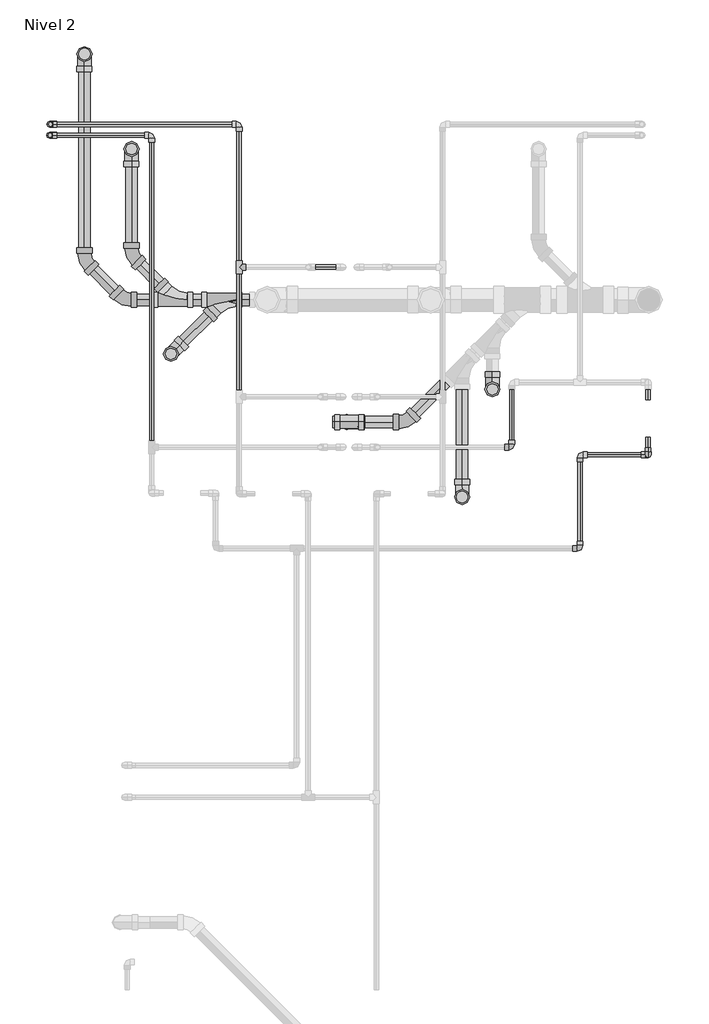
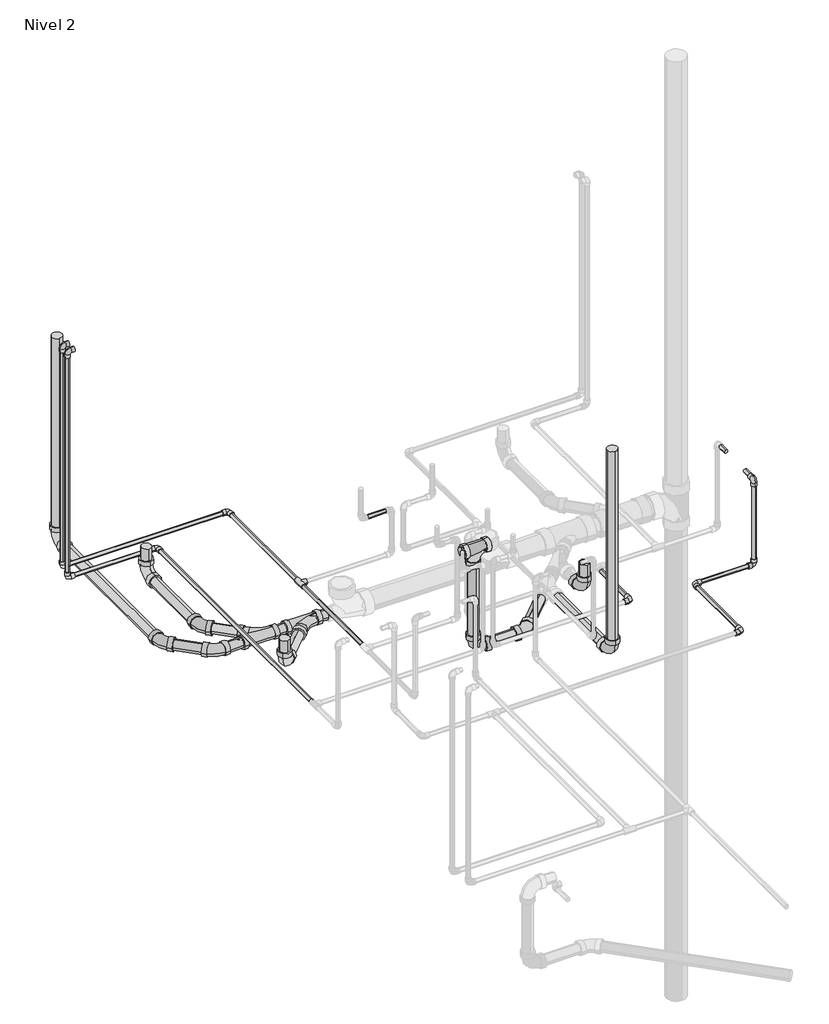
# One storey, part 8 of 9: 33 pipe segments, 25 pipe fittings.
"""IFC4 building model written with IfcOpenShell, lengths in millimetres."""

from ifc_helpers import new_model, si_unit, point, frame, frame_2d, origin, place, context, project, spatial, circle_curve, trimmed, segment, composite_curve, outline, extrude, transform, mapped, element, save
from components import pipe_fitting_ab418b84, pipe_fitting_0163322b, pipe_fitting_6ef1482d, m_codo_pvc_serie_40_9ad74631, m_codo_pvc_serie_40_dwv1_5c0ec739, m_codo_pvc_serie_40_dwv1_6f1a2495

model = new_model("IFC4")

# Units and contexts
model_context = context("Model", 3, world=origin())
ifc_project = project(units=[si_unit("LENGTHUNIT", "METRE", prefix="MILLI")], contexts=[model_context])

# Site, building, storey
site = spatial("IfcSite", under=ifc_project)
building = spatial("IfcBuilding", under=site)
storey = spatial("IfcBuildingStorey", under=building, Name="Nivel 2", Elevation=2800.0)

# Pipe fittings
placement = place(None, origin())
pipe_fitting_shape = pipe_fitting_ab418b84(model_context)
element("IfcPipeFitting", 1, ObjectType="M_Te - PVC - Serie 40 : Estándar", at=placement, inside=storey, context=model_context, shape_type="MappedRepresentation", body=[
    mapped(pipe_fitting_shape, transform((3940.052369, 16556.8784649, 2750.0), x_axis=(0.0, 1.0, 0.0), y_axis=(-1.0, 0.0, 0.0), z_axis=(0.0, 0.0, 1.0))),
])
pipe_fitting_2_shape = pipe_fitting_0163322b(model_context)
element("IfcPipeFitting", 2, ObjectType="M_Sanitario con te de reducción - PVC - Serie 40 - DWV : Estándar", at=placement, inside=storey, context=model_context, shape_type="MappedRepresentation", body=[
    mapped(pipe_fitting_2_shape, transform((3642.8791077, 16403.3960274, 2650.0), x_axis=(-1.0, 0.0, 0.0), y_axis=(0.0, -1.0, 0.0), z_axis=(0.0, 0.0, 1.0))),
])
element("IfcPipeFitting", 3, ObjectType="M_Sanitario con te de reducción - PVC - Serie 40 - DWV : Estándar", at=placement, inside=storey, context=model_context, shape_type="MappedRepresentation", body=[
    mapped(pipe_fitting_2_shape, transform((3873.1661658, 16403.3960274, 2650.0), x_axis=(-1.0, 0.0, 0.0), y_axis=(0.0, 1.0, 0.0), z_axis=(0.0, 0.0, -1.0))),
])
pipe_fitting_3_shape = pipe_fitting_6ef1482d(model_context)
element("IfcPipeFitting", 4, ObjectType="M_Sanitario con te de reducción - PVC - Serie 40 - DWV : Estándar", at=placement, inside=storey, context=model_context, shape_type="MappedRepresentation", body=[
    mapped(pipe_fitting_3_shape, transform((4444.9531324, 15830.0, 3210.6716548), x_axis=(-1.0, 0.0, 0.0), y_axis=(0.0, 0.0, 1.0), z_axis=(0.0, 1.0, 0.0))),
])
m_codo_pvc_serie_40_shape = m_codo_pvc_serie_40_9ad74631(model_context)
element("IfcPipeFitting", 5, ObjectType="M_Codo - PVC - Serie 40 : Estándar", at=placement, inside=storey, context=model_context, shape_type="MappedRepresentation", body=[
    mapped(m_codo_pvc_serie_40_shape, transform((3940.052369, 17227.3386211, 2750.0), x_axis=(0.0, 1.0, 0.0), y_axis=(-1.0, 0.0, 0.0), z_axis=(0.0, 0.0, 1.0))),
])
element("IfcPipeFitting", 6, ObjectType="M_Codo - PVC - Serie 40 : Estándar", at=placement, inside=storey, context=model_context, shape_type="MappedRepresentation", body=[
    mapped(m_codo_pvc_serie_40_shape, transform((3051.302369, 17227.3386211, 2750.0), x_axis=(-1.0, 0.0, 0.0), y_axis=(0.0, 0.0, 1.0), z_axis=(0.0, 1.0, 0.0))),
])
element("IfcPipeFitting", 7, ObjectType="M_Codo - PVC - Serie 40 : Estándar", at=placement, inside=storey, context=model_context, shape_type="MappedRepresentation", body=[
    mapped(m_codo_pvc_serie_40_shape, transform((3051.302369, 17227.3386211, 4000.0), x_axis=(0.0, 0.0, 1.0), y_axis=(1.0, 0.0, 0.0), z_axis=(0.0, 1.0, 0.0))),
])
element("IfcPipeFitting", 8, ObjectType="M_Codo - PVC - Serie 40 : Estándar", at=placement, inside=storey, context=model_context, shape_type="MappedRepresentation", body=[
    mapped(m_codo_pvc_serie_40_shape, transform((3529.5674476, 17176.3878958, 2720.0), x_axis=(0.0, 1.0, 0.0), y_axis=(-1.0, 0.0, 0.0), z_axis=(0.0, 0.0, 1.0))),
])
element("IfcPipeFitting", 9, ObjectType="M_Codo - PVC - Serie 40 : Estándar", at=placement, inside=storey, context=model_context, shape_type="MappedRepresentation", body=[
    mapped(m_codo_pvc_serie_40_shape, transform((3049.5674476, 17176.3878958, 2720.0), x_axis=(-1.0, 0.0, 0.0), y_axis=(0.0, 0.0, 1.0), z_axis=(0.0, 1.0, 0.0))),
])
element("IfcPipeFitting", 10, ObjectType="M_Codo - PVC - Serie 40 : Estándar", at=placement, inside=storey, context=model_context, shape_type="MappedRepresentation", body=[
    mapped(m_codo_pvc_serie_40_shape, transform((3049.5674476, 17176.3878958, 4000.0), x_axis=(0.0, 0.0, 1.0), y_axis=(1.0, 0.0, 0.0), z_axis=(0.0, 1.0, 0.0))),
])
element("IfcPipeFitting", 11, ObjectType="M_Codo - PVC - Serie 40 : Estándar", at=placement, inside=storey, context=model_context, shape_type="MappedRepresentation", body=[
    mapped(m_codo_pvc_serie_40_shape, transform((5540.0276039, 15236.3878958, 2720.0), x_axis=(1.0, 0.0, 0.0), y_axis=(0.0, 1.0, 0.0), z_axis=(0.0, 0.0, 1.0))),
])
element("IfcPipeFitting", 12, ObjectType="M_Codo - PVC - Serie 40 : Estándar", at=placement, inside=storey, context=model_context, shape_type="MappedRepresentation", body=[
    mapped(m_codo_pvc_serie_40_shape, transform((5540.0276039, 15676.3878958, 2720.0), x_axis=(-1.0, 0.0, 0.0), y_axis=(0.0, -1.0, 0.0), z_axis=(0.0, 0.0, 1.0))),
])
element("IfcPipeFitting", 13, ObjectType="M_Codo - PVC - Serie 40 : Estándar", at=placement, inside=storey, context=model_context, shape_type="MappedRepresentation", body=[
    mapped(m_codo_pvc_serie_40_shape, transform((5860.0276039, 15676.3878958, 2720.0), x_axis=(1.0, 0.0, 0.0), y_axis=(0.0, 0.0, 1.0), z_axis=(0.0, -1.0, 0.0))),
])
element("IfcPipeFitting", 14, ObjectType="M_Codo - PVC - Serie 40 : Estándar", at=placement, inside=storey, context=model_context, shape_type="MappedRepresentation", body=[
    mapped(m_codo_pvc_serie_40_shape, transform((5860.0276039, 15676.3878958, 3200.0), x_axis=(0.0, 0.0, 1.0), y_axis=(0.0, 1.0, 0.0), z_axis=(-1.0, 0.0, 0.0))),
])
element("IfcPipeFitting", 15, ObjectType="M_Codo - PVC - Serie 40 : Estándar", at=placement, inside=storey, context=model_context, shape_type="MappedRepresentation", body=[
    mapped(m_codo_pvc_serie_40_shape, transform((5219.5674476, 15711.6215833, 2720.0), x_axis=(1.0, 0.0, 0.0), y_axis=(0.0, 1.0, 0.0), z_axis=(0.0, 0.0, 1.0))),
])
m_codo_pvc_serie_40_dwv1_shape = m_codo_pvc_serie_40_dwv1_5c0ec739(model_context)
element("IfcPipeFitting", 16, ObjectType="M_Codo - PVC - Serie 40 - DWV1 : Estándar 2", at=placement, inside=storey, context=model_context, shape_type="MappedRepresentation", body=[
    mapped(m_codo_pvc_serie_40_dwv1_shape, transform((3434.5151234, 17111.7600116, 2650.0), x_axis=(0.0, 1.0, 0.0), y_axis=(0.0, 0.0, 1.0), z_axis=(1.0, 0.0, 0.0))),
])
element("IfcPipeFitting", 17, ObjectType="M_Codo - PVC - Serie 40 - DWV1 : Estándar 2", at=placement, inside=storey, context=model_context, shape_type="MappedRepresentation", body=[
    mapped(m_codo_pvc_serie_40_dwv1_shape, transform((4444.9531324, 15830.0, 2650.0), x_axis=(0.0, 0.0, -1.0), y_axis=(1.0, 0.0, 0.0), z_axis=(0.0, -1.0, 0.0))),
])
element("IfcPipeFitting", 18, ObjectType="M_Codo - PVC - Serie 40 - DWV1 : Estándar 2", at=placement, inside=storey, context=model_context, shape_type="MappedRepresentation", body=[
    mapped(m_codo_pvc_serie_40_dwv1_shape, transform((5128.991198, 15983.6158639, 2650.0), x_axis=(0.0, -1.0, 0.0), y_axis=(0.0, 0.0, 1.0), z_axis=(-1.0, 0.0, 0.0))),
])
element("IfcPipeFitting", 19, ObjectType="M_Codo - PVC - Serie 40 - DWV1 : Estándar 2", at=placement, inside=storey, context=model_context, shape_type="MappedRepresentation", body=[
    mapped(m_codo_pvc_serie_40_dwv1_shape, transform((3619.7701384, 16150.0, 2650.0), x_axis=(-0.7071067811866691, -0.7071067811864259, 0.0), y_axis=(0.0, 0.0, 1.0), z_axis=(-0.7071067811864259, 0.7071067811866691, 0.0))),
])
element("IfcPipeFitting", 20, ObjectType="M_Codo - PVC - Serie 40 - DWV1 : Estándar 2", at=placement, inside=storey, context=model_context, shape_type="MappedRepresentation", body=[
    mapped(m_codo_pvc_serie_40_dwv1_shape, transform((3213.7125219, 17557.2430701, 2650.0), x_axis=(0.0, 1.0, 0.0), y_axis=(0.0, 0.0, 1.0), z_axis=(1.0, 0.0, 0.0))),
])
element("IfcPipeFitting", 21, ObjectType="M_Codo - PVC - Serie 40 - DWV1 : Estándar 2", at=placement, inside=storey, context=model_context, shape_type="MappedRepresentation", body=[
    mapped(m_codo_pvc_serie_40_dwv1_shape, transform((4986.7349767, 15478.0354988, 2650.0), x_axis=(0.0, 0.0, -1.0), y_axis=(0.0, 1.0, 0.0), z_axis=(1.0, 0.0, 0.0))),
])
m_codo_pvc_serie_40_dwv1_2_shape = m_codo_pvc_serie_40_dwv1_6f1a2495(model_context)
element("IfcPipeFitting", 22, ObjectType="M_Codo - PVC - Serie 40 - DWV1 : Estándar 2", at=placement, inside=storey, context=model_context, shape_type="MappedRepresentation", body=[
    mapped(m_codo_pvc_serie_40_dwv1_2_shape, transform((3434.5151234, 16611.7600116, 2650.0), x_axis=(0.0, -1.0, 0.0), y_axis=(1.0, 0.0, 0.0), z_axis=(0.0, 0.0, 1.0))),
])
element("IfcPipeFitting", 23, ObjectType="M_Codo - PVC - Serie 40 - DWV1 : Estándar 2", at=placement, inside=storey, context=model_context, shape_type="MappedRepresentation", body=[
    mapped(m_codo_pvc_serie_40_dwv1_2_shape, transform((4723.699478, 15830.0, 2650.0), x_axis=(1.0, 0.0, 0.0), y_axis=(0.0, 1.0, 0.0), z_axis=(0.0, 0.0, 1.0))),
])
element("IfcPipeFitting", 24, ObjectType="M_Codo - PVC - Serie 40 - DWV1 : Estándar 2", at=placement, inside=storey, context=model_context, shape_type="MappedRepresentation", body=[
    mapped(m_codo_pvc_serie_40_dwv1_2_shape, transform((3213.7125219, 16587.2430701, 2650.0), x_axis=(0.0, -1.0, 0.0), y_axis=(1.0, 0.0, 0.0), z_axis=(0.0, 0.0, 1.0))),
])
element("IfcPipeFitting", 25, ObjectType="M_Codo - PVC - Serie 40 - DWV1 : Estándar 2", at=placement, inside=storey, context=model_context, shape_type="MappedRepresentation", body=[
    mapped(m_codo_pvc_serie_40_dwv1_2_shape, transform((3397.5595646, 16403.3960274, 2650.0), x_axis=(0.7071067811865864, -0.7071067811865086, 0.0), y_axis=(0.7071067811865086, 0.7071067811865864, 0.0), z_axis=(0.0, 0.0, 1.0))),
])

# Pipe segments
element("IfcPipeSegment", 26, ObjectType="Tuberia PVC Agua Fria", at=placement, inside=storey, context=model_context, shape_type="SweptSolid", body=[
    extrude(outline(composite_curve([segment(trimmed(circle_curve(frame_2d((16556.8784649, 3000.0)), 10.31875), [point((16546.5597149, 3000.0))], [point((16556.8784649, 3010.31875))], False, "CARTESIAN"), True, "CONTINUOUS"), segment(trimmed(circle_curve(frame_2d((16556.8784649, 3000.0)), 10.31875), [point((16556.8784649, 3010.31875))], [point((16567.1972149, 3000.0))], False, "CARTESIAN"), True, "CONTINUOUS"), segment(trimmed(circle_curve(frame_2d((16556.8784649, 3000.0)), 10.31875), [point((16567.1972149, 3000.0))], [point((16556.8784649, 2989.68125))], False, "CARTESIAN"), True, "CONTINUOUS"), segment(trimmed(circle_curve(frame_2d((16556.8784649, 3000.0)), 10.31875), [point((16556.8784649, 2989.68125))], [point((16546.5597149, 3000.0))], False, "CARTESIAN"), True, "CONTINUOUS")], self_intersect=False)), frame((4297.0349186, 0.0, 0.0), z_axis=(1.0, 0.0, 0.0), x_axis=(0.0, 1.0, 0.0)), (0.0, 0.0, 1.0), 98.198),
])
element("IfcPipeSegment", 27, ObjectType="Tuberia PVC Agua Fria", at=placement, inside=storey, context=model_context, shape_type="SweptSolid", body=[
    extrude(outline(composite_curve([segment(trimmed(circle_curve(frame_2d((2750.0, 3940.052369)), 10.31875), [point((2750.0, 3929.733619))], [point((2739.68125, 3940.052369))], False, "CARTESIAN"), True, "CONTINUOUS"), segment(trimmed(circle_curve(frame_2d((2750.0, 3940.052369)), 10.31875), [point((2739.68125, 3940.052369))], [point((2750.0, 3950.371119))], False, "CARTESIAN"), True, "CONTINUOUS"), segment(trimmed(circle_curve(frame_2d((2750.0, 3940.052369)), 10.31875), [point((2750.0, 3950.371119))], [point((2760.31875, 3940.052369))], False, "CARTESIAN"), True, "CONTINUOUS"), segment(trimmed(circle_curve(frame_2d((2750.0, 3940.052369)), 10.31875), [point((2760.31875, 3940.052369))], [point((2750.0, 3929.733619))], False, "CARTESIAN"), True, "CONTINUOUS")], self_intersect=False)), frame((0.0, 15978.8385729, 0.0), z_axis=(0.0, 1.0, 0.0), x_axis=(0.0, 0.0, 1.0)), (0.0, 0.0, 1.0), 547.5797357),
])
element("IfcPipeSegment", 28, ObjectType="Tuberia PVC Agua Fria", at=placement, inside=storey, context=model_context, shape_type="SweptSolid", body=[
    extrude(outline(composite_curve([segment(trimmed(circle_curve(frame_2d((2750.0, 3940.052369)), 10.31875), [point((2750.0, 3950.371119))], [point((2760.31875, 3940.052369))], False, "CARTESIAN"), True, "CONTINUOUS"), segment(trimmed(circle_curve(frame_2d((2750.0, 3940.052369)), 10.31875), [point((2760.31875, 3940.052369))], [point((2750.0, 3929.733619))], False, "CARTESIAN"), True, "CONTINUOUS"), segment(trimmed(circle_curve(frame_2d((2750.0, 3940.052369)), 10.31875), [point((2750.0, 3929.733619))], [point((2739.68125, 3940.052369))], False, "CARTESIAN"), True, "CONTINUOUS"), segment(trimmed(circle_curve(frame_2d((2750.0, 3940.052369)), 10.31875), [point((2739.68125, 3940.052369))], [point((2750.0, 3950.371119))], False, "CARTESIAN"), True, "CONTINUOUS")], self_intersect=False)), frame((0.0, 16587.3386211, 0.0), z_axis=(0.0, 1.0, 0.0), x_axis=(0.0, 0.0, 1.0)), (0.0, 0.0, 1.0), 606.599),
])
element("IfcPipeSegment", 29, ObjectType="Tuberia PVC Agua Fria", at=placement, inside=storey, context=model_context, shape_type="SweptSolid", body=[
    extrude(outline(composite_curve([segment(trimmed(circle_curve(frame_2d((17227.3386211, 2750.0)), 10.31875), [point((17237.6573711, 2750.0))], [point((17227.3386211, 2739.68125))], False, "CARTESIAN"), True, "CONTINUOUS"), segment(trimmed(circle_curve(frame_2d((17227.3386211, 2750.0)), 10.31875), [point((17227.3386211, 2739.68125))], [point((17217.0198711, 2750.0))], False, "CARTESIAN"), True, "CONTINUOUS"), segment(trimmed(circle_curve(frame_2d((17227.3386211, 2750.0)), 10.31875), [point((17217.0198711, 2750.0))], [point((17227.3386211, 2760.31875))], False, "CARTESIAN"), True, "CONTINUOUS"), segment(trimmed(circle_curve(frame_2d((17227.3386211, 2750.0)), 10.31875), [point((17227.3386211, 2760.31875))], [point((17237.6573711, 2750.0))], False, "CARTESIAN"), True, "CONTINUOUS")], self_intersect=False)), frame((3084.703369, 0.0, 0.0), z_axis=(1.0, 0.0, 0.0), x_axis=(0.0, 1.0, 0.0)), (0.0, 0.0, 1.0), 821.948),
])
element("IfcPipeSegment", 30, ObjectType="Tuberia PVC Agua Fria", at=placement, inside=storey, context=model_context, shape_type="SweptSolid", body=[
    extrude(outline(composite_curve([segment(trimmed(circle_curve(frame_2d((3051.302369, 17227.3386211)), 10.31875), [point((3040.983619, 17227.3386211))], [point((3051.302369, 17237.6573711))], False, "CARTESIAN"), True, "CONTINUOUS"), segment(trimmed(circle_curve(frame_2d((3051.302369, 17227.3386211)), 10.31875), [point((3051.302369, 17237.6573711))], [point((3061.621119, 17227.3386211))], False, "CARTESIAN"), True, "CONTINUOUS"), segment(trimmed(circle_curve(frame_2d((3051.302369, 17227.3386211)), 10.31875), [point((3061.621119, 17227.3386211))], [point((3051.302369, 17217.0198711))], False, "CARTESIAN"), True, "CONTINUOUS"), segment(trimmed(circle_curve(frame_2d((3051.302369, 17227.3386211)), 10.31875), [point((3051.302369, 17217.0198711))], [point((3040.983619, 17227.3386211))], False, "CARTESIAN"), True, "CONTINUOUS")], self_intersect=False)), frame((0.0, 0.0, 2783.401), z_axis=(0.0, 0.0, 1.0), x_axis=(1.0, 0.0, 0.0)), (0.0, 0.0, 1.0), 1183.198),
])
element("IfcPipeSegment", 31, ObjectType="Tuberia PVC VENTILACION", at=placement, inside=storey, context=model_context, shape_type="SweptSolid", body=[
    extrude(outline(composite_curve([segment(trimmed(circle_curve(frame_2d((16403.3960274, 2650.0)), 26.9875), [point((16376.4085274, 2650.0))], [point((16403.3960274, 2676.9875))], False, "CARTESIAN"), True, "CONTINUOUS"), segment(trimmed(circle_curve(frame_2d((16403.3960274, 2650.0)), 26.9875), [point((16403.3960274, 2676.9875))], [point((16430.3835274, 2650.0))], False, "CARTESIAN"), True, "CONTINUOUS"), segment(trimmed(circle_curve(frame_2d((16403.3960274, 2650.0)), 26.9875), [point((16430.3835274, 2650.0))], [point((16403.3960274, 2623.0125))], False, "CARTESIAN"), True, "CONTINUOUS"), segment(trimmed(circle_curve(frame_2d((16403.3960274, 2650.0)), 26.9875), [point((16403.3960274, 2623.0125))], [point((16376.4085274, 2650.0))], False, "CARTESIAN"), True, "CONTINUOUS")], self_intersect=False)), frame((3457.9877521, 0.0, 0.0), z_axis=(1.0, 0.0, 0.0), x_axis=(0.0, 1.0, 0.0)), (0.0, 0.0, 1.0), 76.0537489),
])
element("IfcPipeSegment", 32, ObjectType="Tuberia PVC VENTILACION", at=placement, inside=storey, context=model_context, shape_type="SweptSolid", body=[
    extrude(outline(composite_curve([segment(trimmed(circle_curve(frame_2d((2650.0, 3213.7125219)), 26.9875), [point((2650.0, 3240.7000219))], [point((2676.9875, 3213.7125219))], False, "CARTESIAN"), True, "CONTINUOUS"), segment(trimmed(circle_curve(frame_2d((2650.0, 3213.7125219)), 26.9875), [point((2676.9875, 3213.7125219))], [point((2650.0, 3186.7250219))], False, "CARTESIAN"), True, "CONTINUOUS"), segment(trimmed(circle_curve(frame_2d((2650.0, 3213.7125219)), 26.9875), [point((2650.0, 3186.7250219))], [point((2623.0125, 3213.7125219))], False, "CARTESIAN"), True, "CONTINUOUS"), segment(trimmed(circle_curve(frame_2d((2650.0, 3213.7125219)), 26.9875), [point((2623.0125, 3213.7125219))], [point((2650.0, 3240.7000219))], False, "CARTESIAN"), True, "CONTINUOUS")], self_intersect=False)), frame((0.0, 16647.6712576, 0.0), z_axis=(0.0, 1.0, 0.0), x_axis=(0.0, 0.0, 1.0)), (0.0, 0.0, 1.0), 827.02975),
])
element("IfcPipeSegment", 33, ObjectType="Tuberia PVC VENTILACION", at=placement, inside=storey, context=model_context, shape_type="SweptSolid", body=[
    extrude(outline(composite_curve([segment(trimmed(circle_curve(frame_2d((0.0, -26.9875)), 26.9875), [point((-26.9875, -26.9875))], [point((0.0, 0.0))], False, "CARTESIAN"), True, "CONTINUOUS"), segment(trimmed(circle_curve(frame_2d((0.0, -26.9875)), 26.9875), [point((0.0, 0.0))], [point((26.9875001, -26.9875))], False, "CARTESIAN"), True, "CONTINUOUS"), segment(trimmed(circle_curve(frame_2d((0.0, -26.9875)), 26.9875), [point((26.9875001, -26.9875))], [point((0.0, -53.975))], False, "CARTESIAN"), True, "CONTINUOUS"), segment(trimmed(circle_curve(frame_2d((0.0, -26.9875)), 26.9875), [point((0.0, -53.975))], [point((-26.9875, -26.9875))], False, "CARTESIAN"), True, "CONTINUOUS")], self_intersect=False)), frame((3354.8303834, 16446.1252085, 2623.0125), z_axis=(-0.7071067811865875, 0.7071067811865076, 0.0), x_axis=(0.7071067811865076, 0.7071067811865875, 0.0)), (0.0, 0.0, 1.0), 139.1426062),
])
element("IfcPipeSegment", 34, ObjectType="Tuberia PVC VENTILACION", at=placement, inside=storey, context=model_context, shape_type="SweptSolid", body=[
    extrude(outline(composite_curve([segment(trimmed(circle_curve(frame_2d((3213.7125219, 17557.2430701)), 26.9875), [point((3186.7250219, 17557.2430701))], [point((3213.7125219, 17584.2305701))], False, "CARTESIAN"), True, "CONTINUOUS"), segment(trimmed(circle_curve(frame_2d((3213.7125219, 17557.2430701)), 26.9875), [point((3213.7125219, 17584.2305701))], [point((3240.7000219, 17557.2430701))], False, "CARTESIAN"), True, "CONTINUOUS"), segment(trimmed(circle_curve(frame_2d((3213.7125219, 17557.2430701)), 26.9875), [point((3240.7000219, 17557.2430701))], [point((3213.7125219, 17530.2555701))], False, "CARTESIAN"), True, "CONTINUOUS"), segment(trimmed(circle_curve(frame_2d((3213.7125219, 17557.2430701)), 26.9875), [point((3213.7125219, 17530.2555701))], [point((3186.7250219, 17557.2430701))], False, "CARTESIAN"), True, "CONTINUOUS")], self_intersect=False)), frame((0.0, 0.0, 2732.5420625), z_axis=(0.0, 0.0, 1.0), x_axis=(1.0, 0.0, 0.0)), (0.0, 0.0, 1.0), 1067.4579375),
])
element("IfcPipeSegment", 35, ObjectType="Tuberia PVC VENTILACION", at=placement, inside=storey, context=model_context, shape_type="SweptSolid", body=[
    extrude(outline(composite_curve([segment(trimmed(circle_curve(frame_2d((2650.0, 4986.7349767)), 26.9875), [point((2650.0, 5013.7224767))], [point((2676.9875, 4986.7349767))], False, "CARTESIAN"), True, "CONTINUOUS"), segment(trimmed(circle_curve(frame_2d((2650.0, 4986.7349767)), 26.9875), [point((2676.9875, 4986.7349767))], [point((2650.0, 4959.7474767))], False, "CARTESIAN"), True, "CONTINUOUS"), segment(trimmed(circle_curve(frame_2d((2650.0, 4986.7349767)), 26.9875), [point((2650.0, 4959.7474767))], [point((2623.0125, 4986.7349767))], False, "CARTESIAN"), True, "CONTINUOUS"), segment(trimmed(circle_curve(frame_2d((2650.0, 4986.7349767)), 26.9875), [point((2623.0125, 4986.7349767))], [point((2650.0, 5013.7224767))], False, "CARTESIAN"), True, "CONTINUOUS")], self_intersect=False)), frame((0.0, 15560.5775613, 0.0), z_axis=(0.0, 1.0, 0.0), x_axis=(0.0, 0.0, 1.0)), (0.0, 0.0, 1.0), 423.6203308),
])
element("IfcPipeSegment", 36, ObjectType="Tuberia PVC VENTILACION", at=placement, inside=storey, context=model_context, shape_type="SweptSolid", body=[
    extrude(outline(composite_curve([segment(trimmed(circle_curve(frame_2d((4986.7349767, 15478.0354988)), 26.9875), [point((4959.7474767, 15478.0354988))], [point((4986.7349767, 15505.0229988))], False, "CARTESIAN"), True, "CONTINUOUS"), segment(trimmed(circle_curve(frame_2d((4986.7349767, 15478.0354988)), 26.9875), [point((4986.7349767, 15505.0229988))], [point((5013.7224767, 15478.0354988))], False, "CARTESIAN"), True, "CONTINUOUS"), segment(trimmed(circle_curve(frame_2d((4986.7349767, 15478.0354988)), 26.9875), [point((5013.7224767, 15478.0354988))], [point((4986.7349767, 15451.0479988))], False, "CARTESIAN"), True, "CONTINUOUS"), segment(trimmed(circle_curve(frame_2d((4986.7349767, 15478.0354988)), 26.9875), [point((4986.7349767, 15451.0479988))], [point((4959.7474767, 15478.0354988))], False, "CARTESIAN"), True, "CONTINUOUS")], self_intersect=False)), frame((0.0, 0.0, 2732.5420625), z_axis=(0.0, 0.0, 1.0), x_axis=(1.0, 0.0, 0.0)), (0.0, 0.0, 1.0), 1067.4579375),
])
element("IfcPipeSegment", 37, ObjectType="Tuberia PVC Agua Caliente", at=placement, inside=storey, context=model_context, shape_type="SweptSolid", body=[
    extrude(outline(composite_curve([segment(trimmed(circle_curve(frame_2d((17176.3878958, 2720.0)), 10.31875), [point((17186.7066458, 2720.0))], [point((17176.3878958, 2709.68125))], False, "CARTESIAN"), True, "CONTINUOUS"), segment(trimmed(circle_curve(frame_2d((17176.3878958, 2720.0)), 10.31875), [point((17176.3878958, 2709.68125))], [point((17166.0691458, 2720.0))], False, "CARTESIAN"), True, "CONTINUOUS"), segment(trimmed(circle_curve(frame_2d((17176.3878958, 2720.0)), 10.31875), [point((17166.0691458, 2720.0))], [point((17176.3878958, 2730.31875))], False, "CARTESIAN"), True, "CONTINUOUS"), segment(trimmed(circle_curve(frame_2d((17176.3878958, 2720.0)), 10.31875), [point((17176.3878958, 2730.31875))], [point((17186.7066458, 2720.0))], False, "CARTESIAN"), True, "CONTINUOUS")], self_intersect=False)), frame((3082.9684476, 0.0, 0.0), z_axis=(1.0, 0.0, 0.0), x_axis=(0.0, 1.0, 0.0)), (0.0, 0.0, 1.0), 413.198),
])
element("IfcPipeSegment", 38, ObjectType="Tuberia PVC Agua Caliente", at=placement, inside=storey, context=model_context, shape_type="SweptSolid", body=[
    extrude(outline(composite_curve([segment(trimmed(circle_curve(frame_2d((3049.5674476, 17176.3878958)), 10.31875), [point((3039.2486976, 17176.3878958))], [point((3049.5674476, 17186.7066458))], False, "CARTESIAN"), True, "CONTINUOUS"), segment(trimmed(circle_curve(frame_2d((3049.5674476, 17176.3878958)), 10.31875), [point((3049.5674476, 17186.7066458))], [point((3059.8861976, 17176.3878958))], False, "CARTESIAN"), True, "CONTINUOUS"), segment(trimmed(circle_curve(frame_2d((3049.5674476, 17176.3878958)), 10.31875), [point((3059.8861976, 17176.3878958))], [point((3049.5674476, 17166.0691458))], False, "CARTESIAN"), True, "CONTINUOUS"), segment(trimmed(circle_curve(frame_2d((3049.5674476, 17176.3878958)), 10.31875), [point((3049.5674476, 17166.0691458))], [point((3039.2486976, 17176.3878958))], False, "CARTESIAN"), True, "CONTINUOUS")], self_intersect=False)), frame((0.0, 0.0, 2753.401), z_axis=(0.0, 0.0, 1.0), x_axis=(1.0, 0.0, 0.0)), (0.0, 0.0, 1.0), 1213.198),
])
element("IfcPipeSegment", 39, ObjectType="Tuberia PVC Agua Caliente", at=placement, inside=storey, context=model_context, shape_type="SweptSolid", body=[
    extrude(outline(composite_curve([segment(trimmed(circle_curve(frame_2d((2720.0, 5540.0276039)), 10.31875), [point((2720.0, 5550.3463539))], [point((2730.31875, 5540.0276039))], False, "CARTESIAN"), True, "CONTINUOUS"), segment(trimmed(circle_curve(frame_2d((2720.0, 5540.0276039)), 10.31875), [point((2730.31875, 5540.0276039))], [point((2720.0, 5529.7088539))], False, "CARTESIAN"), True, "CONTINUOUS"), segment(trimmed(circle_curve(frame_2d((2720.0, 5540.0276039)), 10.31875), [point((2720.0, 5529.7088539))], [point((2709.68125, 5540.0276039))], False, "CARTESIAN"), True, "CONTINUOUS"), segment(trimmed(circle_curve(frame_2d((2720.0, 5540.0276039)), 10.31875), [point((2709.68125, 5540.0276039))], [point((2720.0, 5550.3463539))], False, "CARTESIAN"), True, "CONTINUOUS")], self_intersect=False)), frame((0.0, 15269.7888958, 0.0), z_axis=(0.0, 1.0, 0.0), x_axis=(0.0, 0.0, 1.0)), (0.0, 0.0, 1.0), 373.198),
])
element("IfcPipeSegment", 40, ObjectType="Tuberia PVC Agua Caliente", at=placement, inside=storey, context=model_context, shape_type="SweptSolid", body=[
    extrude(outline(composite_curve([segment(trimmed(circle_curve(frame_2d((15676.3878958, 2720.0)), 10.31875), [point((15666.0691458, 2720.0))], [point((15676.3878958, 2730.31875))], False, "CARTESIAN"), True, "CONTINUOUS"), segment(trimmed(circle_curve(frame_2d((15676.3878958, 2720.0)), 10.31875), [point((15676.3878958, 2730.31875))], [point((15686.7066458, 2720.0))], False, "CARTESIAN"), True, "CONTINUOUS"), segment(trimmed(circle_curve(frame_2d((15676.3878958, 2720.0)), 10.31875), [point((15686.7066458, 2720.0))], [point((15676.3878958, 2709.68125))], False, "CARTESIAN"), True, "CONTINUOUS"), segment(trimmed(circle_curve(frame_2d((15676.3878958, 2720.0)), 10.31875), [point((15676.3878958, 2709.68125))], [point((15666.0691458, 2720.0))], False, "CARTESIAN"), True, "CONTINUOUS")], self_intersect=False)), frame((5573.4286039, 0.0, 0.0), z_axis=(1.0, 0.0, 0.0), x_axis=(0.0, 1.0, 0.0)), (0.0, 0.0, 1.0), 253.198),
])
element("IfcPipeSegment", 41, ObjectType="Tuberia PVC Agua Caliente", at=placement, inside=storey, context=model_context, shape_type="SweptSolid", body=[
    extrude(outline(composite_curve([segment(trimmed(circle_curve(frame_2d((3200.0, 5860.0276039)), 10.31875), [point((3200.0, 5870.3463539))], [point((3210.31875, 5860.0276039))], False, "CARTESIAN"), True, "CONTINUOUS"), segment(trimmed(circle_curve(frame_2d((3200.0, 5860.0276039)), 10.31875), [point((3210.31875, 5860.0276039))], [point((3200.0, 5849.7088539))], False, "CARTESIAN"), True, "CONTINUOUS"), segment(trimmed(circle_curve(frame_2d((3200.0, 5860.0276039)), 10.31875), [point((3200.0, 5849.7088539))], [point((3189.68125, 5860.0276039))], False, "CARTESIAN"), True, "CONTINUOUS"), segment(trimmed(circle_curve(frame_2d((3200.0, 5860.0276039)), 10.31875), [point((3189.68125, 5860.0276039))], [point((3200.0, 5870.3463539))], False, "CARTESIAN"), True, "CONTINUOUS")], self_intersect=False)), frame((0.0, 15935.3878958, 0.0), z_axis=(0.0, 1.0, 0.0), x_axis=(0.0, 0.0, 1.0)), (0.0, 0.0, 1.0), 47.599),
])
element("IfcPipeSegment", 42, ObjectType="Tuberia PVC Agua Caliente", at=placement, inside=storey, context=model_context, shape_type="SweptSolid", body=[
    extrude(outline(composite_curve([segment(trimmed(circle_curve(frame_2d((5860.0276039, 15676.3878958)), 10.31875), [point((5849.7088539, 15676.3878958))], [point((5860.0276039, 15686.7066458))], False, "CARTESIAN"), True, "CONTINUOUS"), segment(trimmed(circle_curve(frame_2d((5860.0276039, 15676.3878958)), 10.31875), [point((5860.0276039, 15686.7066458))], [point((5870.3463539, 15676.3878958))], False, "CARTESIAN"), True, "CONTINUOUS"), segment(trimmed(circle_curve(frame_2d((5860.0276039, 15676.3878958)), 10.31875), [point((5870.3463539, 15676.3878958))], [point((5860.0276039, 15666.0691458))], False, "CARTESIAN"), True, "CONTINUOUS"), segment(trimmed(circle_curve(frame_2d((5860.0276039, 15676.3878958)), 10.31875), [point((5860.0276039, 15666.0691458))], [point((5849.7088539, 15676.3878958))], False, "CARTESIAN"), True, "CONTINUOUS")], self_intersect=False)), frame((0.0, 0.0, 2753.401), z_axis=(0.0, 0.0, 1.0), x_axis=(1.0, 0.0, 0.0)), (0.0, 0.0, 1.0), 413.198),
])
element("IfcPipeSegment", 43, ObjectType="Tuberia PVC Agua Caliente", at=placement, inside=storey, context=model_context, shape_type="SweptSolid", body=[
    extrude(outline(composite_curve([segment(trimmed(circle_curve(frame_2d((2720.0, 5219.5674476)), 10.31875), [point((2720.0, 5209.2486976))], [point((2709.68125, 5219.5674476))], False, "CARTESIAN"), True, "CONTINUOUS"), segment(trimmed(circle_curve(frame_2d((2720.0, 5219.5674476)), 10.31875), [point((2709.68125, 5219.5674476))], [point((2720.0, 5229.8861976))], False, "CARTESIAN"), True, "CONTINUOUS"), segment(trimmed(circle_curve(frame_2d((2720.0, 5219.5674476)), 10.31875), [point((2720.0, 5229.8861976))], [point((2730.31875, 5219.5674476))], False, "CARTESIAN"), True, "CONTINUOUS"), segment(trimmed(circle_curve(frame_2d((2720.0, 5219.5674476)), 10.31875), [point((2730.31875, 5219.5674476))], [point((2720.0, 5209.2486976))], False, "CARTESIAN"), True, "CONTINUOUS")], self_intersect=False)), frame((0.0, 15745.0225833, 0.0), z_axis=(0.0, 1.0, 0.0), x_axis=(0.0, 0.0, 1.0)), (0.0, 0.0, 1.0), 237.9643125),
])
element("IfcPipeSegment", 44, ObjectType="Tuberia PVC Agua Caliente", at=placement, inside=storey, context=model_context, shape_type="SweptSolid", body=[
    extrude(outline(composite_curve([segment(trimmed(circle_curve(frame_2d((2720.0, 3529.5674476)), 10.31875), [point((2720.0, 3539.8861976))], [point((2730.31875, 3529.5674476))], False, "CARTESIAN"), True, "CONTINUOUS"), segment(trimmed(circle_curve(frame_2d((2720.0, 3529.5674476)), 10.31875), [point((2730.31875, 3529.5674476))], [point((2720.0, 3519.2486976))], False, "CARTESIAN"), True, "CONTINUOUS"), segment(trimmed(circle_curve(frame_2d((2720.0, 3529.5674476)), 10.31875), [point((2720.0, 3519.2486976))], [point((2709.68125, 3529.5674476))], False, "CARTESIAN"), True, "CONTINUOUS"), segment(trimmed(circle_curve(frame_2d((2720.0, 3529.5674476)), 10.31875), [point((2709.68125, 3529.5674476))], [point((2720.0, 3539.8861976))], False, "CARTESIAN"), True, "CONTINUOUS")], self_intersect=False)), frame((0.0, 15742.0817396, 0.0), z_axis=(0.0, 1.0, 0.0), x_axis=(0.0, 0.0, 1.0)), (0.0, 0.0, 1.0), 1400.9051562),
])
element("IfcPipeSegment", 45, ObjectType="Tuberia PVC Agua Caliente", at=placement, inside=storey, context=model_context, shape_type="SweptSolid", body=[
    extrude(outline(composite_curve([segment(trimmed(circle_curve(frame_2d((3200.0, 5860.0276039)), 10.31875), [point((3200.0, 5870.3463539))], [point((3210.31875, 5860.0276039))], False, "CARTESIAN"), True, "CONTINUOUS"), segment(trimmed(circle_curve(frame_2d((3200.0, 5860.0276039)), 10.31875), [point((3210.31875, 5860.0276039))], [point((3200.0, 5849.7088539))], False, "CARTESIAN"), True, "CONTINUOUS"), segment(trimmed(circle_curve(frame_2d((3200.0, 5860.0276039)), 10.31875), [point((3200.0, 5849.7088539))], [point((3189.68125, 5860.0276039))], False, "CARTESIAN"), True, "CONTINUOUS"), segment(trimmed(circle_curve(frame_2d((3200.0, 5860.0276039)), 10.31875), [point((3189.68125, 5860.0276039))], [point((3200.0, 5870.3463539))], False, "CARTESIAN"), True, "CONTINUOUS")], self_intersect=False)), frame((0.0, 15709.7888958, 0.0), z_axis=(0.0, 1.0, 0.0), x_axis=(0.0, 0.0, 1.0)), (0.0, 0.0, 1.0), 47.599),
])
element("IfcPipeSegment", 46, ObjectType="Tuberia PVC Sanitario", at=placement, inside=storey, context=model_context, shape_type="SweptSolid", body=[
    extrude(outline(composite_curve([segment(trimmed(circle_curve(frame_2d((15830.0, 2650.0)), 26.9875), [point((15856.9875, 2650.0))], [point((15830.0, 2623.0125))], False, "CARTESIAN"), True, "CONTINUOUS"), segment(trimmed(circle_curve(frame_2d((15830.0, 2650.0)), 26.9875), [point((15830.0, 2623.0125))], [point((15803.0125, 2650.0))], False, "CARTESIAN"), True, "CONTINUOUS"), segment(trimmed(circle_curve(frame_2d((15830.0, 2650.0)), 26.9875), [point((15803.0125, 2650.0))], [point((15830.0, 2676.9875))], False, "CARTESIAN"), True, "CONTINUOUS"), segment(trimmed(circle_curve(frame_2d((15830.0, 2650.0)), 26.9875), [point((15830.0, 2676.9875))], [point((15856.9875, 2650.0))], False, "CARTESIAN"), True, "CONTINUOUS")], self_intersect=False)), frame((4527.4951949, 0.0, 0.0), z_axis=(1.0, 0.0, 0.0), x_axis=(0.0, 1.0, 0.0)), (0.0, 0.0, 1.0), 135.7760956),
])
element("IfcPipeSegment", 47, ObjectType="Tuberia PVC Sanitario", at=placement, inside=storey, context=model_context, shape_type="SweptSolid", body=[
    extrude(outline(composite_curve([segment(trimmed(circle_curve(frame_2d((15830.0, 3210.6716548)), 26.9875), [point((15856.9875, 3210.6716548))], [point((15830.0, 3183.6841548))], False, "CARTESIAN"), True, "CONTINUOUS"), segment(trimmed(circle_curve(frame_2d((15830.0, 3210.6716548)), 26.9875), [point((15830.0, 3183.6841548))], [point((15803.0125, 3210.6716548))], False, "CARTESIAN"), True, "CONTINUOUS"), segment(trimmed(circle_curve(frame_2d((15830.0, 3210.6716548)), 26.9875), [point((15803.0125, 3210.6716548))], [point((15830.0, 3237.6591548))], False, "CARTESIAN"), True, "CONTINUOUS"), segment(trimmed(circle_curve(frame_2d((15830.0, 3210.6716548)), 26.9875), [point((15830.0, 3237.6591548))], [point((15856.9875, 3210.6716548))], False, "CARTESIAN"), True, "CONTINUOUS")], self_intersect=False)), frame((4524.8875992, 0.0, 0.0), z_axis=(1.0, 0.0, 0.0), x_axis=(0.0, 1.0, 0.0)), (0.0, 0.0, 1.0), 5.0655333),
])
element("IfcPipeSegment", 48, ObjectType="Tuberia PVC Sanitario", at=placement, inside=storey, context=model_context, shape_type="SweptSolid", body=[
    extrude(outline(composite_curve([segment(trimmed(circle_curve(frame_2d((4444.9531324, 15830.0)), 26.9875), [point((4471.9406324, 15830.0))], [point((4444.9531324, 15803.0125))], False, "CARTESIAN"), True, "CONTINUOUS"), segment(trimmed(circle_curve(frame_2d((4444.9531324, 15830.0)), 26.9875), [point((4444.9531324, 15803.0125))], [point((4417.9656324, 15830.0))], False, "CARTESIAN"), True, "CONTINUOUS"), segment(trimmed(circle_curve(frame_2d((4444.9531324, 15830.0)), 26.9875), [point((4417.9656324, 15830.0))], [point((4444.9531324, 15856.9875))], False, "CARTESIAN"), True, "CONTINUOUS"), segment(trimmed(circle_curve(frame_2d((4444.9531324, 15830.0)), 26.9875), [point((4444.9531324, 15856.9875))], [point((4471.9406324, 15830.0))], False, "CARTESIAN"), True, "CONTINUOUS")], self_intersect=False)), frame((0.0, 0.0, 2732.5420625), z_axis=(0.0, 0.0, 1.0), x_axis=(1.0, 0.0, 0.0)), (0.0, 0.0, 1.0), 396.3376235),
])
element("IfcPipeSegment", 49, ObjectType="Tuberia PVC Sanitario", at=placement, inside=storey, context=model_context, shape_type="SweptSolid", body=[
    extrude(outline(composite_curve([segment(trimmed(circle_curve(frame_2d((15830.0, 3210.6716548)), 26.9875), [point((15856.9875, 3210.6716548))], [point((15830.0, 3183.6841548))], False, "CARTESIAN"), True, "CONTINUOUS"), segment(trimmed(circle_curve(frame_2d((15830.0, 3210.6716548)), 26.9875), [point((15830.0, 3183.6841548))], [point((15803.0125, 3210.6716548))], False, "CARTESIAN"), True, "CONTINUOUS"), segment(trimmed(circle_curve(frame_2d((15830.0, 3210.6716548)), 26.9875), [point((15803.0125, 3210.6716548))], [point((15830.0, 3237.6591548))], False, "CARTESIAN"), True, "CONTINUOUS"), segment(trimmed(circle_curve(frame_2d((15830.0, 3210.6716548)), 26.9875), [point((15830.0, 3237.6591548))], [point((15856.9875, 3210.6716548))], False, "CARTESIAN"), True, "CONTINUOUS")], self_intersect=False)), frame((4379.9531324, 0.0, 0.0), z_axis=(1.0, 0.0, 0.0), x_axis=(0.0, 1.0, 0.0)), (0.0, 0.0, 1.0), 7.8070105),
])
element("IfcPipeSegment", 50, ObjectType="Tuberia PVC Sanitario", at=placement, inside=storey, context=model_context, shape_type="SweptSolid", body=[
    extrude(outline(composite_curve([segment(trimmed(circle_curve(frame_2d((2650.0, 3434.5151234)), 26.9875), [point((2650.0, 3461.5026234))], [point((2676.9875, 3434.5151234))], False, "CARTESIAN"), True, "CONTINUOUS"), segment(trimmed(circle_curve(frame_2d((2650.0, 3434.5151234)), 26.9875), [point((2676.9875, 3434.5151234))], [point((2650.0, 3407.5276234))], False, "CARTESIAN"), True, "CONTINUOUS"), segment(trimmed(circle_curve(frame_2d((2650.0, 3434.5151234)), 26.9875), [point((2650.0, 3407.5276234))], [point((2623.0125, 3434.5151234))], False, "CARTESIAN"), True, "CONTINUOUS"), segment(trimmed(circle_curve(frame_2d((2650.0, 3434.5151234)), 26.9875), [point((2623.0125, 3434.5151234))], [point((2650.0, 3461.5026234))], False, "CARTESIAN"), True, "CONTINUOUS")], self_intersect=False)), frame((0.0, 16672.1881991, 0.0), z_axis=(0.0, 1.0, 0.0), x_axis=(0.0, 0.0, 1.0)), (0.0, 0.0, 1.0), 357.02975),
])
element("IfcPipeSegment", 51, ObjectType="Tuberia PVC Sanitario", at=placement, inside=storey, context=model_context, shape_type="SweptSolid", body=[
    extrude(outline(composite_curve([segment(trimmed(circle_curve(frame_2d((0.0, 26.9875)), 26.9875), [point((26.9875001, 26.9875))], [point((0.0, 0.0))], False, "CARTESIAN"), True, "CONTINUOUS"), segment(trimmed(circle_curve(frame_2d((0.0, 26.9875)), 26.9875), [point((0.0, 0.0))], [point((-26.9875, 26.9875))], False, "CARTESIAN"), True, "CONTINUOUS"), segment(trimmed(circle_curve(frame_2d((0.0, 26.9875)), 26.9875), [point((-26.9875, 26.9875))], [point((0.0, 53.975))], False, "CARTESIAN"), True, "CONTINUOUS"), segment(trimmed(circle_curve(frame_2d((0.0, 26.9875)), 26.9875), [point((0.0, 53.975))], [point((26.9875001, 26.9875))], False, "CARTESIAN"), True, "CONTINUOUS")], self_intersect=False)), frame((3565.9192979, 16480.3558371, 2676.9875), z_axis=(-0.7071067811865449, 0.7071067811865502, 0.0), x_axis=(0.7071067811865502, 0.7071067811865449, 0.0)), (0.0, 0.0, 1.0), 125.4053782),
])
element("IfcPipeSegment", 52, ObjectType="Tuberia PVC Sanitario", at=placement, inside=storey, context=model_context, shape_type="SweptSolid", body=[
    extrude(outline(composite_curve([segment(trimmed(circle_curve(frame_2d((3434.5151234, 17111.7600116)), 26.9875), [point((3407.5276234, 17111.7600116))], [point((3434.5151234, 17138.7475116))], False, "CARTESIAN"), True, "CONTINUOUS"), segment(trimmed(circle_curve(frame_2d((3434.5151234, 17111.7600116)), 26.9875), [point((3434.5151234, 17138.7475116))], [point((3461.5026234, 17111.7600116))], False, "CARTESIAN"), True, "CONTINUOUS"), segment(trimmed(circle_curve(frame_2d((3434.5151234, 17111.7600116)), 26.9875), [point((3461.5026234, 17111.7600116))], [point((3434.5151234, 17084.7725116))], False, "CARTESIAN"), True, "CONTINUOUS"), segment(trimmed(circle_curve(frame_2d((3434.5151234, 17111.7600116)), 26.9875), [point((3434.5151234, 17084.7725116))], [point((3407.5276234, 17111.7600116))], False, "CARTESIAN"), True, "CONTINUOUS")], self_intersect=False)), frame((0.0, 0.0, 2732.5420625), z_axis=(0.0, 0.0, 1.0), x_axis=(1.0, 0.0, 0.0)), (0.0, 0.0, 1.0), 67.4579375),
])
element("IfcPipeSegment", 53, ObjectType="Tuberia PVC Sanitario", at=placement, inside=storey, context=model_context, shape_type="SweptSolid", body=[
    extrude(outline(composite_curve([segment(trimmed(circle_curve(frame_2d((0.0, -26.9875)), 26.9875), [point((-26.9874999, -26.9875))], [point((0.0, 0.0))], False, "CARTESIAN"), True, "CONTINUOUS"), segment(trimmed(circle_curve(frame_2d((0.0, -26.9875)), 26.9875), [point((0.0, 0.0))], [point((26.9875001, -26.9875))], False, "CARTESIAN"), True, "CONTINUOUS"), segment(trimmed(circle_curve(frame_2d((0.0, -26.9875)), 26.9875), [point((26.9875001, -26.9875))], [point((0.0, -53.975))], False, "CARTESIAN"), True, "CONTINUOUS"), segment(trimmed(circle_curve(frame_2d((0.0, -26.9875)), 26.9875), [point((0.0, -53.975))], [point((-26.9874999, -26.9875))], False, "CARTESIAN"), True, "CONTINUOUS")], self_intersect=False)), frame((4766.4286591, 15872.7291812, 2623.0125), z_axis=(0.707106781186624, 0.7071067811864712, 0.0), x_axis=(0.7071067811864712, -0.707106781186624, 0.0)), (0.0, 0.0, 1.0), 202.7225755),
])
element("IfcPipeSegment", 54, ObjectType="Tuberia PVC Sanitario", at=placement, inside=storey, context=model_context, shape_type="SweptSolid", body=[
    extrude(outline(composite_curve([segment(trimmed(circle_curve(frame_2d((5128.991198, 15983.6158639)), 26.9875), [point((5102.003698, 15983.6158639))], [point((5128.991198, 16010.6033639))], False, "CARTESIAN"), True, "CONTINUOUS"), segment(trimmed(circle_curve(frame_2d((5128.991198, 15983.6158639)), 26.9875), [point((5128.991198, 16010.6033639))], [point((5155.978698, 15983.6158639))], False, "CARTESIAN"), True, "CONTINUOUS"), segment(trimmed(circle_curve(frame_2d((5128.991198, 15983.6158639)), 26.9875), [point((5155.978698, 15983.6158639))], [point((5128.991198, 15956.6283639))], False, "CARTESIAN"), True, "CONTINUOUS"), segment(trimmed(circle_curve(frame_2d((5128.991198, 15983.6158639)), 26.9875), [point((5128.991198, 15956.6283639))], [point((5102.003698, 15983.6158639))], False, "CARTESIAN"), True, "CONTINUOUS")], self_intersect=False)), frame((0.0, 0.0, 2732.5420625), z_axis=(0.0, 0.0, 1.0), x_axis=(1.0, 0.0, 0.0)), (0.0, 0.0, 1.0), 67.4579375),
])
element("IfcPipeSegment", 55, ObjectType="Tuberia PVC Sanitario", at=placement, inside=storey, context=model_context, shape_type="SweptSolid", body=[
    extrude(outline(composite_curve([segment(trimmed(circle_curve(frame_2d((0.0, -26.9875)), 26.9875), [point((-26.9875001, -26.9875))], [point((0.0, 0.0))], False, "CARTESIAN"), True, "CONTINUOUS"), segment(trimmed(circle_curve(frame_2d((0.0, -26.9875)), 26.9875), [point((0.0, 0.0))], [point((26.9874999, -26.9875))], False, "CARTESIAN"), True, "CONTINUOUS"), segment(trimmed(circle_curve(frame_2d((0.0, -26.9875)), 26.9875), [point((26.9874999, -26.9875))], [point((0.0, -53.975))], False, "CARTESIAN"), True, "CONTINUOUS"), segment(trimmed(circle_curve(frame_2d((0.0, -26.9875)), 26.9875), [point((0.0, -53.975))], [point((-26.9875001, -26.9875))], False, "CARTESIAN"), True, "CONTINUOUS")], self_intersect=False)), frame((3678.1361906, 16208.3660521, 2623.0125), z_axis=(0.7071067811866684, 0.7071067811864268, 0.0), x_axis=(0.7071067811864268, -0.7071067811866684, 0.0)), (0.0, 0.0, 1.0), 166.9764293),
])
element("IfcPipeSegment", 56, ObjectType="Tuberia PVC Sanitario", at=placement, inside=storey, context=model_context, shape_type="SweptSolid", body=[
    extrude(outline(composite_curve([segment(trimmed(circle_curve(frame_2d((16403.3960274, 2650.0)), 26.9875), [point((16376.4085274, 2650.0))], [point((16403.3960274, 2676.9875))], False, "CARTESIAN"), True, "CONTINUOUS"), segment(trimmed(circle_curve(frame_2d((16403.3960274, 2650.0)), 26.9875), [point((16403.3960274, 2676.9875))], [point((16430.3835274, 2650.0))], False, "CARTESIAN"), True, "CONTINUOUS"), segment(trimmed(circle_curve(frame_2d((16403.3960274, 2650.0)), 26.9875), [point((16430.3835274, 2650.0))], [point((16403.3960274, 2623.0125))], False, "CARTESIAN"), True, "CONTINUOUS"), segment(trimmed(circle_curve(frame_2d((16403.3960274, 2650.0)), 26.9875), [point((16403.3960274, 2623.0125))], [point((16376.4085274, 2650.0))], False, "CARTESIAN"), True, "CONTINUOUS")], self_intersect=False)), frame((3953.1006325, 0.0, 0.0), z_axis=(1.0, 0.0, 0.0), x_axis=(0.0, 1.0, 0.0)), (0.0, 0.0, 1.0), 35.626931),
])
element("IfcPipeSegment", 57, ObjectType="Tuberia PVC Sanitario", at=placement, inside=storey, context=model_context, shape_type="SweptSolid", body=[
    extrude(outline(composite_curve([segment(trimmed(circle_curve(frame_2d((16403.3960274, 2650.0)), 26.9875), [point((16376.4085274, 2650.0))], [point((16403.3960274, 2676.9875))], False, "CARTESIAN"), True, "CONTINUOUS"), segment(trimmed(circle_curve(frame_2d((16403.3960274, 2650.0)), 26.9875), [point((16403.3960274, 2676.9875))], [point((16430.3835274, 2650.0))], False, "CARTESIAN"), True, "CONTINUOUS"), segment(trimmed(circle_curve(frame_2d((16403.3960274, 2650.0)), 26.9875), [point((16430.3835274, 2650.0))], [point((16403.3960274, 2623.0125))], False, "CARTESIAN"), True, "CONTINUOUS"), segment(trimmed(circle_curve(frame_2d((16403.3960274, 2650.0)), 26.9875), [point((16403.3960274, 2623.0125))], [point((16376.4085274, 2650.0))], False, "CARTESIAN"), True, "CONTINUOUS")], self_intersect=False)), frame((3722.8135744, 0.0, 0.0), z_axis=(1.0, 0.0, 0.0), x_axis=(0.0, 1.0, 0.0)), (0.0, 0.0, 1.0), 41.5149847),
])
element("IfcPipeSegment", 58, ObjectType="Tuberia PVC Sanitario", at=placement, inside=storey, context=model_context, shape_type="SweptSolid", body=[
    extrude(outline(composite_curve([segment(trimmed(circle_curve(frame_2d((3619.7701384, 16150.0)), 26.9875), [point((3592.7826384, 16150.0))], [point((3619.7701384, 16176.9875))], False, "CARTESIAN"), True, "CONTINUOUS"), segment(trimmed(circle_curve(frame_2d((3619.7701384, 16150.0)), 26.9875), [point((3619.7701384, 16176.9875))], [point((3646.7576384, 16150.0))], False, "CARTESIAN"), True, "CONTINUOUS"), segment(trimmed(circle_curve(frame_2d((3619.7701384, 16150.0)), 26.9875), [point((3646.7576384, 16150.0))], [point((3619.7701384, 16123.0125))], False, "CARTESIAN"), True, "CONTINUOUS"), segment(trimmed(circle_curve(frame_2d((3619.7701384, 16150.0)), 26.9875), [point((3619.7701384, 16123.0125))], [point((3592.7826384, 16150.0))], False, "CARTESIAN"), True, "CONTINUOUS")], self_intersect=False)), frame((0.0, 0.0, 2732.5420625), z_axis=(0.0, 0.0, 1.0), x_axis=(1.0, 0.0, 0.0)), (0.0, 0.0, 1.0), 67.4579375),
])

save(model, "model.ifc")
